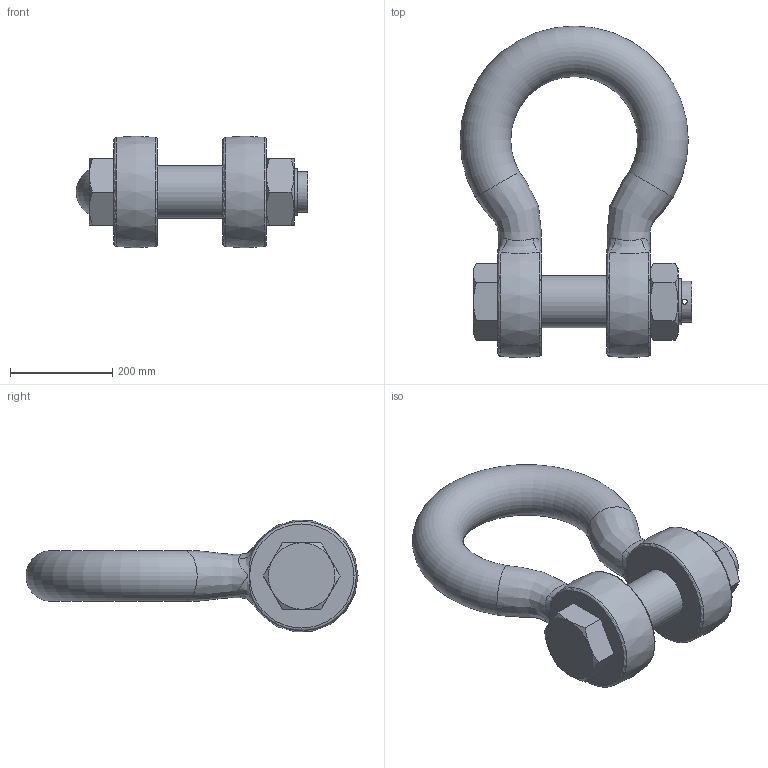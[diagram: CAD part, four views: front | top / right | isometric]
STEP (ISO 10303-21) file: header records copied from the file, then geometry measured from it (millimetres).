
FILE_DESCRIPTION(/* description */ (''),/* implementation_level */ '2;1');
FILE_NAME(/* name */ 'C:\Users\D\Documents\Inventor\HP\吊具\シャックル\BB_2\bb_85.stp',/* time_stamp */ '2024-11-20T10:47:05+09:00',/* author */ ('D'),/* organization */ (''),/* preprocessor_version */ 'ST-DEVELOPER v18',/* originating_system */ 'Autodesk Inventor 2020',/* authorisation */ '');
FILE_SCHEMA (('AUTOMOTIVE_DESIGN { 1 0 10303 214 3 1 1 }'));
Length unit declared in the file: millimetre
Products named in the file (3): bb_85; ba_6; sb_pin_10
Assembly tree (2 placements, depth 2):
  bb_85
    ba_6
    sb_pin_10
Bounding box: 453 x 649 x 218.64 mm (x, y, z)
Volume: 16286966.9 mm3; surface area: 792025.7 mm2
Topology: 4 solids, 4 shells, 71 faces, 177 edges, 117 vertices
Faces by surface type: plane 26, cone 19, bspline 14, cylinder 7, torus 5
Full cylindrical faces by diameter (mm): 10 x1, 80 x1, 90 x2, 102 x1, 104 x2
Entity records: 4100 total; most frequent: CARTESIAN_POINT 2455, ORIENTED_EDGE 354, DIRECTION 293, EDGE_CURVE 177, AXIS2_PLACEMENT_3D 133, VERTEX_POINT 117, EDGE_LOOP 80, CIRCLE 71
